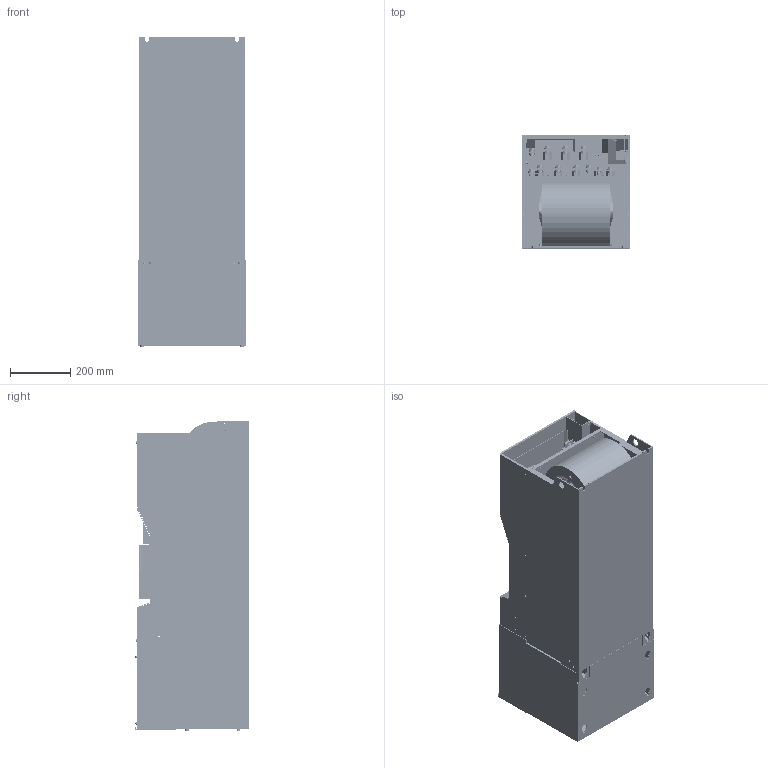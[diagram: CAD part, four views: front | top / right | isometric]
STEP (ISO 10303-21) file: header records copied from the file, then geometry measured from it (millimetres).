
FILE_DESCRIPTION((''),'2;1');
FILE_NAME('VFAS3J_S10_WITH_DCL_ASM','2020-08-28T19:56:36',('SESA57332'),('Schneider-Electric'),'CREO PARAMETRIC BY PTC INC, 2019164','CREO PARAMETRIC BY PTC INC, 2019164','');
FILE_SCHEMA(('CONFIG_CONTROL_DESIGN'));
Products named in the file (37): VFAS3J_DRIVE_J11; S6571331_000; VFAS3J_DISPLAY; VFAS3J_CTR_TERM2; VFAS3J_CTR_TERM_SHORT_BAR; VFAS3J_CTR_TERM_SCREW_M3-1; VFAS3J_CTR_TERM_SCREW_M3-2; VFAS3J_CTR_TERM_FL_COVER; VFAS3J_CTR_TERM_ASM; VFAS3J_DISPLAY_COVER; M4X10; M4X20; CLAMP_N3; CLAMP_N2; CABLE_CLAMP_ASM; M10X20; M8X20; M4_FAN_POWER_TERMINAL; M12_W-M; M12X35; M12_SW-2; M12_NUT; M8_NUT_WITH_WASHER; M6_NUT_WITH_WASHER; VFAS3J_GROUNDING_SWITCHING_BAR; VFAS3J_CABLE_CHANNEL_J11; VFAS3J_TERMINAL_COVER_J11; VFAS3J_FRONT_COVER_J11; VFAS3J_CHANNEL_COVER_HHP; VFAS3J_J11_000_ASM; DCL1_OPTION_BOX_S10; DC-CHOKE_2750; MB_NUT_WITH_WASHER; DCL1_OPTION_TB-BOX_S10; DCL1_OPTION_COVER_S10; DCL1_OPTION_S10_ASM; VFAS3J_S10_WITH_DCL_ASM
Assembly tree (104 placements, depth 4):
  VFAS3J_S10_WITH_DCL_ASM
    VFAS3J_J11_000_ASM
      VFAS3J_DRIVE_J11
      S6571331_000
      VFAS3J_DISPLAY
      VFAS3J_CTR_TERM_ASM
        VFAS3J_CTR_TERM2
        VFAS3J_CTR_TERM_SHORT_BAR  x2
        VFAS3J_CTR_TERM_SCREW_M3-1  x23
        VFAS3J_CTR_TERM_SCREW_M3-2  x3
        VFAS3J_CTR_TERM_FL_COVER
      VFAS3J_DISPLAY_COVER
      CABLE_CLAMP_ASM
        M4X10  x2
        M4X20
        CLAMP_N3
        CLAMP_N2  x2
      M10X20  x9
      M8X20  x2
      M4_FAN_POWER_TERMINAL  x3
      M12_W-M  x6
      M12X35  x3
      M12_SW-2  x3
      M12_NUT  x3
      M8_NUT_WITH_WASHER
      M6_NUT_WITH_WASHER  x2
      VFAS3J_GROUNDING_SWITCHING_BAR
      VFAS3J_CABLE_CHANNEL_J11
      VFAS3J_TERMINAL_COVER_J11
      VFAS3J_FRONT_COVER_J11
      VFAS3J_CHANNEL_COVER_HHP
    DCL1_OPTION_S10_ASM
      DCL1_OPTION_BOX_S10
      DC-CHOKE_2750
      M6_NUT_WITH_WASHER  x8
      M12_W-M  x4
      M12X35  x2
      M12_SW-2  x2
      M12_NUT  x2
      MB_NUT_WITH_WASHER
      DCL1_OPTION_TB-BOX_S10
      DCL1_OPTION_COVER_S10
Bounding box: 360 x 375 x 1027.9 mm (x, y, z)
Volume: 65461001.5 mm3; surface area: 5118971.9 mm2
Topology: 100 solids, 115 shells, 9994 faces, 26335 edges, 17609 vertices
Faces by surface type: plane 8348, cylinder 1253, torus 164, cone 137, sphere 92
Entity records: 279479 total; most frequent: CARTESIAN_POINT 50496, ORIENTED_EDGE 47588, DIRECTION 45236, EDGE_CURVE 23794, VECTOR 20328, LINE 20328, VERTEX_POINT 15942, AXIS2_PLACEMENT_3D 12454
